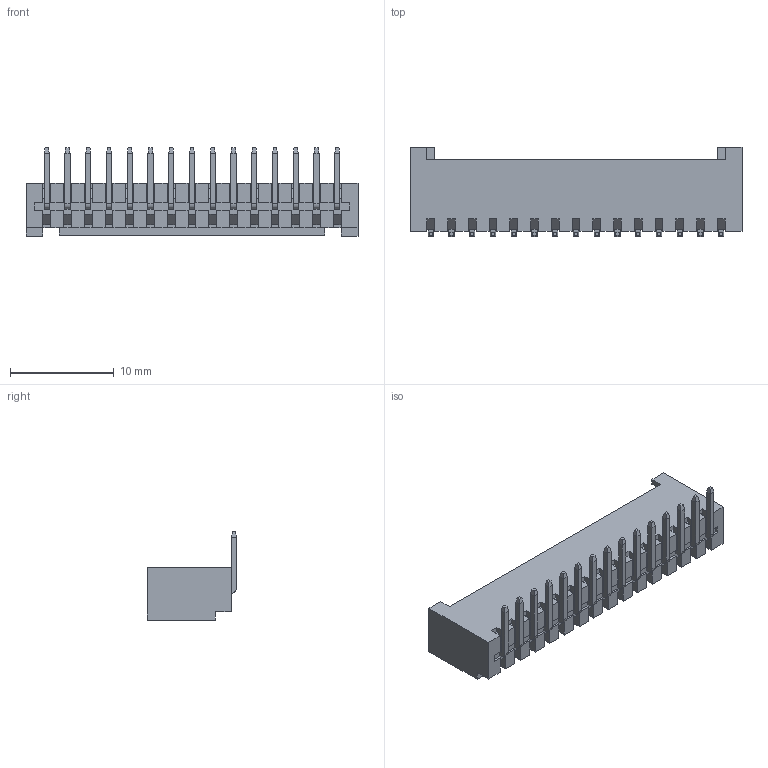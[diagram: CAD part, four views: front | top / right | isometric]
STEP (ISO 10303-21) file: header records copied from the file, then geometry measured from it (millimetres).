
FILE_DESCRIPTION(('CATIA V5 STEP Exchange'),'2;1');
FILE_NAME('\\Erp\共享文件夹\3D文件\小覃\条形连接器-小黄\HY\NAW\HC-PHD-15AW-05(2.0 单排 弯针-HCTL).stp','2025-03-04T08:18:19+00:00',('none'),('none'),'CATIA Version 5 Release 20 GA (IN-10)','CATIA V5 STEP AP203','none');
FILE_SCHEMA(('CONFIG_CONTROL_DESIGN'));
Length unit declared in the file: millimetre
Products named in the file (1): Part4
Bounding box: 32 x 8.6 x 8.5 mm (x, y, z)
Volume: 487.5 mm3; surface area: 1442.6 mm2
Topology: 1 solids, 1 shells, 532 faces, 1378 edges, 878 vertices
Faces by surface type: plane 517, cylinder 15
Entity records: 13938 total; most frequent: ORIENTED_EDGE 2756, CARTESIAN_POINT 2423, DIRECTION 1710, EDGE_CURVE 1378, VECTOR 1348, LINE 1348, VERTEX_POINT 878, EDGE_LOOP 562
